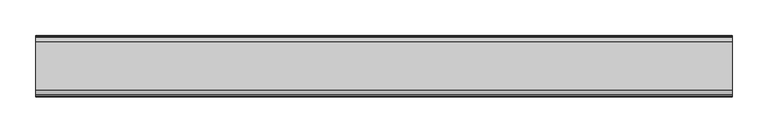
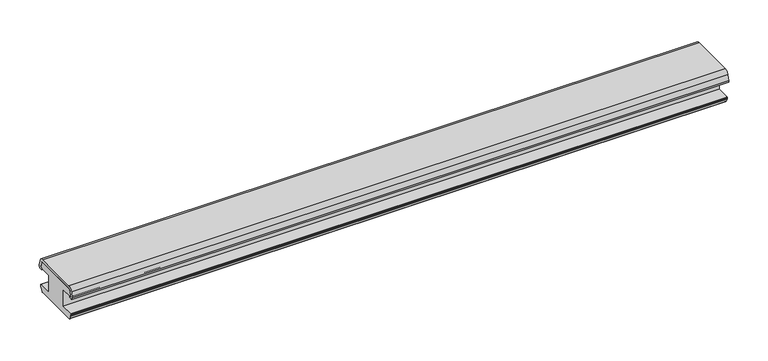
"""IFC4 building model written with IfcOpenShell, lengths in millimetres: proxy geometry, Weiku - Montante - Divisor fixo : Weiku - Montante - Divisor fixo."""

import ifcopenshell
import ifcopenshell.guid

model = None  # the IFC model being written
_history = None  # IfcOwnerHistory: only IFC2X3 demands one
_inside = {}  # id of a spatial element -> (the spatial element, [elements in it])
_under = {}  # id of a project, library or spatial element -> (it, [spatial elements below it])
_declared = {}  # id of a project -> (the project, [libraries it declares])
_typed = {}  # id of a type object -> (the type object, [elements of that type])
_made_of = {}  # id of a material, layer set ... -> (it, [elements and type objects made of it])


def new_model(schema):
    """Start an empty IFC model of exactly this schema.

    Asked for "IFC4X3", IfcOpenShell would pick the latest addendum, in which some entities
    have other attributes; the version numbers below select the first issue.
    IFC2X3 requires an IfcOwnerHistory on every rooted entity: one is made here for all.
    """
    global model, _history
    if schema == "IFC4X3":
        model = ifcopenshell.file(schema_version=(4, 3, 0, 0))
    else:
        model = ifcopenshell.file(schema=schema)
    _inside.clear()
    _under.clear()
    _declared.clear()
    _typed.clear()
    _made_of.clear()
    _history = None
    if model.schema == "IFC2X3":
        org = make("IfcOrganization", Name="unknown")
        user = make(
            "IfcPersonAndOrganization",
            ThePerson=make("IfcPerson", FamilyName="unknown"),
            TheOrganization=org,
        )
        app = make(
            "IfcApplication",
            ApplicationDeveloper=org,
            Version="unknown",
            ApplicationFullName="unknown",
            ApplicationIdentifier="unknown",
        )
        _history = make(
            "IfcOwnerHistory",
            OwningUser=user,
            OwningApplication=app,
            ChangeAction="ADDED",
            CreationDate=0,
        )
    return model


def make(cls, **values):
    """One entity of the class cls with the attributes given. An attribute that is None is left unset."""
    return model.create_entity(
        cls, **{name: value for name, value in values.items() if value is not None}
    )


def rooted(cls, **values):
    """An entity with a GlobalId (a new one), such as an element, a storey or a relation."""
    return make(cls, GlobalId=ifcopenshell.guid.new(), OwnerHistory=_history, **values)


def si_unit(unit_type, name, prefix=None):
    """IfcSIUnit, for example si_unit("LENGTHUNIT", "METRE", prefix="MILLI")."""
    return make("IfcSIUnit", UnitType=unit_type, Prefix=prefix, Name=name)


def assignment(units):
    """IfcUnitAssignment: the units of a project."""
    return None if units is None else make("IfcUnitAssignment", Units=units)


def point(xyz):
    """IfcCartesianPoint."""
    return None if xyz is None else make("IfcCartesianPoint", Coordinates=xyz)


def direction(xyz):
    """IfcDirection."""
    return None if xyz is None else make("IfcDirection", DirectionRatios=xyz)


def frame(location, z_axis=None, x_axis=None):
    """IfcAxis2Placement3D, a coordinate frame: its origin and axes. An axis left out is left unset."""
    return make(
        "IfcAxis2Placement3D",
        Location=point(location),
        Axis=direction(z_axis),
        RefDirection=direction(x_axis),
    )


def frame_2d(location, x_axis=None):
    """IfcAxis2Placement2D, a coordinate frame in the plane: its origin and x axis."""
    return make(
        "IfcAxis2Placement2D", Location=point(location), RefDirection=direction(x_axis)
    )


def origin():
    """The frame at (0, 0, 0) with its axes left unset."""
    return frame((0.0, 0.0, 0.0))


def place(relative_to, where):
    """IfcLocalPlacement: puts the frame where relative to a parent placement (None: the world)."""
    return make(
        "IfcLocalPlacement", PlacementRelTo=relative_to, RelativePlacement=where
    )


def context(
    kind, dimensions, precision=None, world=None, true_north=None, identifier=None
):
    """IfcGeometricRepresentationContext, for example the 3D "Model" context."""
    return make(
        "IfcGeometricRepresentationContext",
        ContextIdentifier=identifier,
        ContextType=kind,
        CoordinateSpaceDimension=dimensions,
        Precision=precision,
        WorldCoordinateSystem=world,
        TrueNorth=true_north,
    )


def project(units=None, contexts=None):
    """IfcProject with its units and contexts."""
    return rooted(
        "IfcProject",
        Name="project",
        RepresentationContexts=contexts,
        UnitsInContext=assignment(units),
    )


def spatial(cls, under=None, at=None, **own):
    """A site, building, storey or space (cls), placed at a placement, below another one or the project."""
    s = rooted(cls, ObjectPlacement=at, **own)
    if under is not None:
        _under.setdefault(under.id(), (under, []))[1].append(s)
    return s


def polyline(points):
    """IfcPolyline through the points."""
    return make("IfcPolyline", Points=[point(p) for p in points])


def circle_curve(where, radius):
    """IfcCircle in the frame where."""
    return make("IfcCircle", Position=where, Radius=radius)


def trimmed(basis, trim1, trim2, sense, master):
    """IfcTrimmedCurve: the piece of a basis curve between two trims."""
    return make(
        "IfcTrimmedCurve",
        BasisCurve=basis,
        Trim1=trim1,
        Trim2=trim2,
        SenseAgreement=sense,
        MasterRepresentation=master,
    )


def segment(curve, same_sense, transition):
    """IfcCompositeCurveSegment."""
    return make(
        "IfcCompositeCurveSegment",
        Transition=transition,
        SameSense=same_sense,
        ParentCurve=curve,
    )


def composite_curve(segments, self_intersect=None):
    """IfcCompositeCurve: segments joined end to end."""
    return make("IfcCompositeCurve", Segments=segments, SelfIntersect=self_intersect)


def outline(outer, holes=None, kind="AREA"):
    """IfcArbitraryClosedProfileDef: a profile drawn as a closed curve; with holes, ...WithVoids."""
    if holes is None:
        return make("IfcArbitraryClosedProfileDef", ProfileType=kind, OuterCurve=outer)
    return make(
        "IfcArbitraryProfileDefWithVoids",
        ProfileType=kind,
        OuterCurve=outer,
        InnerCurves=holes,
    )


def extrude(swept, where, along, depth):
    """IfcExtrudedAreaSolid: the profile swept, set in the frame where, extruded along a direction by depth."""
    return make(
        "IfcExtrudedAreaSolid",
        SweptArea=swept,
        Position=where,
        ExtrudedDirection=direction(along),
        Depth=depth,
    )


def shape(context_of_items, identifier, shape_type, items):
    """IfcShapeRepresentation: the items that make up one representation, for example the "Body"."""
    return make(
        "IfcShapeRepresentation",
        ContextOfItems=context_of_items,
        RepresentationIdentifier=identifier,
        RepresentationType=shape_type,
        Items=items,
    )


def source(mapping_origin, context_of_items, identifier, shape_type, items):
    """IfcRepresentationMap: a shape defined once, which mapped items show again and again."""
    return make(
        "IfcRepresentationMap",
        MappingOrigin=mapping_origin,
        MappedRepresentation=shape(context_of_items, identifier, shape_type, items),
    )


def transform(
    local_origin,
    x_axis=None,
    y_axis=None,
    z_axis=None,
    scale=None,
    scale2=None,
    scale3=None,
    uniform=True,
):
    """IfcCartesianTransformationOperator3D, or its non-uniform kind. x_axis, y_axis, z_axis: its Axis1, 2, 3."""
    if uniform:
        return make(
            "IfcCartesianTransformationOperator3D",
            Axis1=direction(x_axis),
            Axis2=direction(y_axis),
            LocalOrigin=point(local_origin),
            Scale=scale,
            Axis3=direction(z_axis),
        )
    return make(
        "IfcCartesianTransformationOperator3DnonUniform",
        Axis1=direction(x_axis),
        Axis2=direction(y_axis),
        LocalOrigin=point(local_origin),
        Scale=scale,
        Axis3=direction(z_axis),
        Scale2=scale2,
        Scale3=scale3,
    )


def mapped(mapping_source, mapping_target):
    """IfcMappedItem: shows the shape of a source again, moved by a transform."""
    return make(
        "IfcMappedItem", MappingSource=mapping_source, MappingTarget=mapping_target
    )


def made_of(thing, what):
    """Note that an element or type object is made of a material, layer set ...; save() writes the relation."""
    if what is not None:
        _made_of.setdefault(what.id(), (what, []))[1].append(thing)
    return thing


def element(
    cls,
    number,
    at=None,
    inside=None,
    cuts=None,
    type_object=None,
    material=None,
    context=None,
    identifier="Body",
    shape_type=None,
    held_by="IfcProductDefinitionShape",
    body=None,
    shapes=None,
    **own,
):
    """One element of the class cls, such as IfcWall. Its Tag is "e" and its number.

    at: its placement. inside: the storey or other place that contains it. cuts: it is an
    opening in that element (IfcRelVoidsElement). A single representation is given by context,
    identifier, shape_type and body (its items); several are given by shapes. held_by: the class
    of the entity that holds the representations. save() writes the other relations.
    """
    e = rooted(cls, Tag="e%d" % number, ObjectPlacement=at, **own)
    if body is not None:
        shapes = [shape(context, identifier, shape_type, body)]
    if shapes is not None:
        e.Representation = make(held_by, Representations=shapes)
    if inside is not None:
        _inside.setdefault(inside.id(), (inside, []))[1].append(e)
    if cuts is not None:
        rooted(
            "IfcRelVoidsElement", RelatingBuildingElement=cuts, RelatedOpeningElement=e
        )
    if type_object is not None:
        _typed.setdefault(type_object.id(), (type_object, []))[1].append(e)
    return made_of(e, material)


def aggregate(whole, parts):
    """IfcRelAggregates: a whole, such as a stair, and the parts it consists of."""
    return rooted("IfcRelAggregates", RelatingObject=whole, RelatedObjects=parts)


def save(model, path):
    """Write the relations noted so far, then the file.

    IfcRelAggregates (storeys below a building ...), IfcRelContainedInSpatialStructure (elements
    in a storey), IfcRelDefinesByType, IfcRelAssociatesMaterial and IfcRelDeclares: one each for
    every whole, place, type object, material and project.
    """
    for whole, parts in _under.values():
        aggregate(whole, parts)
    for where, things in _inside.values():
        rooted(
            "IfcRelContainedInSpatialStructure",
            RelatedElements=things,
            RelatingStructure=where,
        )
    for kind, things in _typed.values():
        rooted("IfcRelDefinesByType", RelatedObjects=things, RelatingType=kind)
    for what, things in _made_of.values():
        rooted("IfcRelAssociatesMaterial", RelatedObjects=things, RelatingMaterial=what)
    for by, libraries in _declared.values():
        rooted("IfcRelDeclares", RelatingContext=by, RelatedDefinitions=libraries)
    model.write(path)


def generic_models_c249c70b(model_context):
    return source(origin(), model_context, "Body", "SweptSolid", [
        extrude(outline(composite_curve([segment(polyline([(-35.6935072, 35.9998185), (-35.6935072, 33.9998185), (-39.4193974, 33.9998185)]), True, "CONTINUOUS"), segment(trimmed(circle_curve(frame_2d((-39.4193974, 36.9998185)), 3.0), [point((-39.4193974, 33.9998185))], [point((-42.3171749, 37.7762756))], False, "CARTESIAN"), True, "CONTINUOUS"), segment(polyline([(-42.3171749, 37.7762756), (-40.1641291, 45.8115518)]), True, "CONTINUOUS"), segment(trimmed(circle_curve(frame_2d((-33.4026483, 43.9998185)), 7.0), [point((-40.1641291, 45.8115518))], [point((-33.4026483, 50.9998185))], False, "CARTESIAN"), True, "CONTINUOUS"), segment(polyline([(-33.4026483, 50.9998185), (33.4026483, 50.9998185)]), True, "CONTINUOUS"), segment(trimmed(circle_curve(frame_2d((33.4026483, 43.9998185)), 7.0), [point((33.4026483, 50.9998185))], [point((40.1641291, 45.8115518))], False, "CARTESIAN"), True, "CONTINUOUS"), segment(polyline([(40.1641291, 45.8115518), (42.3171749, 37.7762756)]), True, "CONTINUOUS"), segment(trimmed(circle_curve(frame_2d((39.4193974, 36.9998185)), 3.0), [point((42.3171749, 37.7762756))], [point((39.4193974, 33.9998185))], False, "CARTESIAN"), True, "CONTINUOUS"), segment(polyline([(39.4193974, 33.9998185), (35.6935072, 33.9998185), (35.6935072, 35.9998185), (37.6094901, 35.9998185)]), True, "CONTINUOUS"), segment(trimmed(circle_curve(frame_2d((37.6094901, 36.7998185)), 0.8), [point((37.6094901, 35.9998185))], [point((38.3822308, 37.0068737))], True, "CARTESIAN"), True, "CONTINUOUS"), segment(polyline([(38.3822308, 37.0068737), (36.3004258, 44.7762756)]), True, "CONTINUOUS"), segment(trimmed(circle_curve(frame_2d((33.4026483, 43.9998185)), 3.0), [point((36.3004258, 44.7762756))], [point((33.4026483, 46.9998185))], True, "CARTESIAN"), True, "CONTINUOUS"), segment(polyline([(33.4026483, 46.9998185), (-33.4026483, 46.9998185)]), True, "CONTINUOUS"), segment(trimmed(circle_curve(frame_2d((-33.4026483, 43.9998185)), 3.0), [point((-33.4026483, 46.9998185))], [point((-36.3004258, 44.7762756))], True, "CARTESIAN"), True, "CONTINUOUS"), segment(polyline([(-36.3004258, 44.7762756), (-38.3822308, 37.0068737)]), True, "CONTINUOUS"), segment(trimmed(circle_curve(frame_2d((-37.6094901, 36.7998185)), 0.8), [point((-38.3822308, 37.0068737))], [point((-37.6094901, 35.9998185))], True, "CARTESIAN"), True, "CONTINUOUS"), segment(polyline([(-37.6094901, 35.9998185), (-35.6935072, 35.9998185)]), True, "CONTINUOUS")], self_intersect=False)), frame((-483.6, 0.0, 0.0), z_axis=(1.0, 0.0, 0.0), x_axis=(0.0, 1.0, 0.0)), (0.0, 0.0, 1.0), 967.2),
        extrude(outline(composite_curve([segment(polyline([(33.9236898, 0.0001815), (-33.9236898, 0.0001815)]), True, "CONTINUOUS"), segment(trimmed(circle_curve(frame_2d((-33.9236898, 1.0001815)), 1.0), [point((-33.9236898, 0.0001815))], [point((-34.7897452, 0.5002335))], False, "CARTESIAN"), True, "CONTINUOUS"), segment(polyline([(-34.7897452, 0.5002335), (-38.2325085, 6.4641016)]), True, "CONTINUOUS"), segment(trimmed(circle_curve(frame_2d((-36.5004577, 7.4641016)), 2.0), [point((-38.2325085, 6.4641016))], [point((-38.5004577, 7.4641016))], False, "CARTESIAN"), True, "CONTINUOUS"), segment(polyline([(-38.5004577, 7.4641016), (-38.5004577, 8.8)]), True, "CONTINUOUS"), segment(trimmed(circle_curve(frame_2d((-37.8004577, 8.8)), 0.7), [point((-38.5004577, 8.8))], [point((-37.8004577, 9.5))], False, "CARTESIAN"), True, "CONTINUOUS"), segment(polyline([(-37.8004577, 9.5), (-17.5004577, 9.5), (-17.5004577, 36.0), (-37.6094901, 36.0)]), True, "CONTINUOUS"), segment(trimmed(circle_curve(frame_2d((-37.6094901, 36.8)), 0.8), [point((-37.6094901, 36.0))], [point((-38.3822308, 37.0070552))], False, "CARTESIAN"), True, "CONTINUOUS"), segment(polyline([(-38.3822308, 37.0070552), (-36.3004258, 44.7764571)]), True, "CONTINUOUS"), segment(trimmed(circle_curve(frame_2d((-33.4026483, 44.0)), 3.0), [point((-36.3004258, 44.7764571))], [point((-33.4026483, 47.0))], False, "CARTESIAN"), True, "CONTINUOUS"), segment(polyline([(-33.4026483, 47.0), (33.4026483, 47.0)]), True, "CONTINUOUS"), segment(trimmed(circle_curve(frame_2d((33.4026483, 44.0)), 3.0), [point((33.4026483, 47.0))], [point((36.3004258, 44.7764571))], False, "CARTESIAN"), True, "CONTINUOUS"), segment(polyline([(36.3004258, 44.7764571), (38.3822308, 37.0070552)]), True, "CONTINUOUS"), segment(trimmed(circle_curve(frame_2d((37.6094901, 36.8)), 0.8), [point((38.3822308, 37.0070552))], [point((37.6094901, 36.0))], False, "CARTESIAN"), True, "CONTINUOUS"), segment(polyline([(37.6094901, 36.0), (17.5004577, 36.0), (17.5004577, 9.5), (37.8004577, 9.5)]), True, "CONTINUOUS"), segment(trimmed(circle_curve(frame_2d((37.8004577, 8.8)), 0.7), [point((37.8004577, 9.5))], [point((38.5004577, 8.8))], False, "CARTESIAN"), True, "CONTINUOUS"), segment(polyline([(38.5004577, 8.8), (38.5004577, 7.4641016)]), True, "CONTINUOUS"), segment(trimmed(circle_curve(frame_2d((36.5004577, 7.4641016)), 2.0), [point((38.5004577, 7.4641016))], [point((38.2325686, 6.4642056))], False, "CARTESIAN"), True, "CONTINUOUS"), segment(polyline([(38.2325686, 6.4642056), (34.7897452, 0.5002335)]), True, "CONTINUOUS"), segment(trimmed(circle_curve(frame_2d((33.9236898, 1.0001815)), 1.0), [point((34.7897452, 0.5002335))], [point((33.9236898, 0.0001815))], False, "CARTESIAN"), True, "CONTINUOUS")], self_intersect=False)), frame((-483.6, 0.0, 0.0), z_axis=(1.0, 0.0, 0.0), x_axis=(0.0, 1.0, 0.0)), (0.0, 0.0, 1.0), 967.2),
    ])


if __name__ == "__main__":
    model = new_model("IFC4")
    model_context = context("Model", 3, world=origin())
    ifc_project = project(units=[si_unit("LENGTHUNIT", "METRE", prefix="MILLI")], contexts=[model_context])
    site = spatial("IfcSite", under=ifc_project)
    building = spatial("IfcBuilding", under=site)
    placement = place(None, origin())
    generic_models_shape = generic_models_c249c70b(model_context)
    element("IfcBuildingElementProxy", 1, Name="Weiku - Montante - Divisor fixo : Weiku - Montante - Divisor fixo", ObjectType="Weiku - Montante - Divisor fixo : Weiku - Montante - Divisor fixo", at=placement, inside=building, context=model_context, shape_type="MappedRepresentation", body=[
        mapped(generic_models_shape, transform((0.0, 0.0, 0.0), x_axis=(1.0, 0.0, 0.0), y_axis=(0.0, 1.0, 0.0), z_axis=(0.0, 0.0, 1.0))),
    ])
    save(model, "model.ifc")
